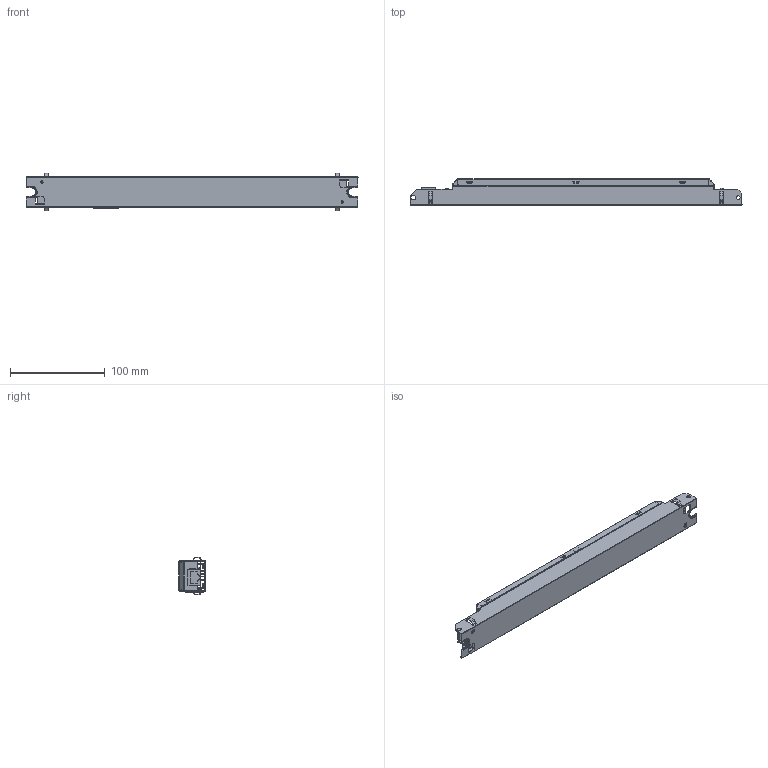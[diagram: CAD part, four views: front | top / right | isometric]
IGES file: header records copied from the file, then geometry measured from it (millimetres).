
Start section: SolidWorks IGES file using analytic representation for surfaces
Global section: file name: C:\Users\jiaqichen\Desktop\BXDR-60LT-U220P-01-A_1015.IGS; native system: SolidWorks 2020; preprocessor: SolidWorks 2020; author: jiaqichen; date: 201023.132216; units: millimetre
Bounding box: 350.2 x 27.9 x 39.2 mm (x, y, z)
Volume: 29800.6 mm3; surface area: 110793.2 mm2
Topology: 25 solids, 25 shells, 3041 faces, 8049 edges, 5033 vertices
Faces by surface type: plane 1627, revolution 1329, bspline 85
